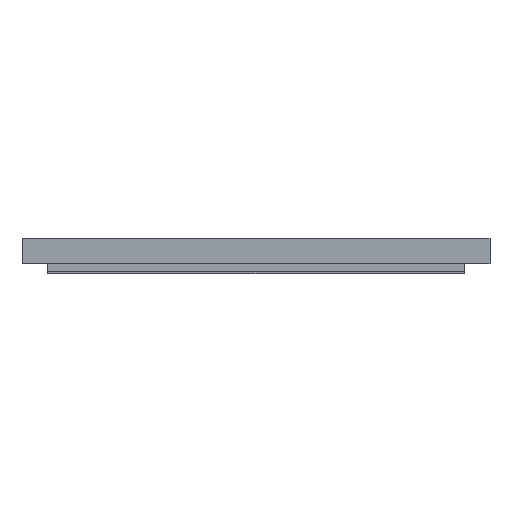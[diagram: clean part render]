
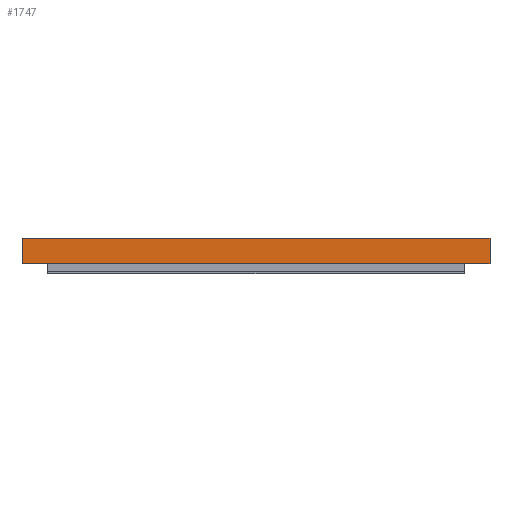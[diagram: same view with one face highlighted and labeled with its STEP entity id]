
A CAD part, left-side view. The second image highlights one B-rep face of the part: STEP entity #1747.
In plain terms, the highlighted planar face has unit normal (-1, 0, 0).
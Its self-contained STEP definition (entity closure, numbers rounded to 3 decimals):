
#87 = EDGE_CURVE ( 'NONE', #4824, #4411, #1331, .T. ) ;
#126 = VECTOR ( 'NONE', #4864, 1000. ) ;
#418 = VECTOR ( 'NONE', #5890, 1000. ) ;
#615 = EDGE_CURVE ( 'NONE', #3539, #726, #1576, .T. ) ;
#726 = VERTEX_POINT ( 'NONE', #2591 ) ;
#826 = DIRECTION ( 'NONE',  ( 0., 1., 0. ) ) ;
#854 = DIRECTION ( 'NONE',  ( 0., -1., 0. ) ) ;
#932 = CARTESIAN_POINT ( 'NONE',  ( -161.877, 397.5, 513.5 ) ) ;
#1040 = CARTESIAN_POINT ( 'NONE',  ( -161.877, -397.5, 535. ) ) ;
#1065 = ORIENTED_EDGE ( 'NONE', *, *, #87, .F. ) ;
#1118 = DIRECTION ( 'NONE',  ( 0., 1., 0. ) ) ;
#1146 = VECTOR ( 'NONE', #854, 1000. ) ;
#1197 = CARTESIAN_POINT ( 'NONE',  ( -161.877, 397.5, 492. ) ) ;
#1331 = LINE ( 'NONE', #932, #418 ) ;
#1342 = ORIENTED_EDGE ( 'NONE', *, *, #3318, .F. ) ;
#1504 = VECTOR ( 'NONE', #1118, 1000. ) ;
#1534 = ORIENTED_EDGE ( 'NONE', *, *, #4152, .F. ) ;
#1576 = LINE ( 'NONE', #3951, #126 ) ;
#1747 = ADVANCED_FACE ( 'NONE', ( #4040 ), #3257, .T. ) ;
#1771 = ORIENTED_EDGE ( 'NONE', *, *, #615, .F. ) ;
#1810 = EDGE_LOOP ( 'NONE', ( #1065, #1534, #1771, #1342 ) ) ;
#2200 = CARTESIAN_POINT ( 'NONE',  ( -161.877, 0., 535. ) ) ;
#2591 = CARTESIAN_POINT ( 'NONE',  ( -161.877, -397.5, 492. ) ) ;
#2618 = LINE ( 'NONE', #2200, #1146 ) ;
#2809 = CARTESIAN_POINT ( 'NONE',  ( -161.877, 397.5, 535. ) ) ;
#3257 = PLANE ( 'NONE',  #4479 ) ;
#3318 = EDGE_CURVE ( 'NONE', #4411, #3539, #2618, .T. ) ;
#3380 = CARTESIAN_POINT ( 'NONE',  ( -161.877, 0., 492. ) ) ;
#3438 = LINE ( 'NONE', #3380, #1504 ) ;
#3539 = VERTEX_POINT ( 'NONE', #1040 ) ;
#3951 = CARTESIAN_POINT ( 'NONE',  ( -161.877, -397.5, 513.5 ) ) ;
#4040 = FACE_OUTER_BOUND ( 'NONE', #1810, .T. ) ;
#4070 = DIRECTION ( 'NONE',  ( -1., 0., 0. ) ) ;
#4152 = EDGE_CURVE ( 'NONE', #726, #4824, #3438, .T. ) ;
#4411 = VERTEX_POINT ( 'NONE', #2809 ) ;
#4479 = AXIS2_PLACEMENT_3D ( 'NONE', #5879, #4070, #826 ) ;
#4824 = VERTEX_POINT ( 'NONE', #1197 ) ;
#4864 = DIRECTION ( 'NONE',  ( 0., 0., -1. ) ) ;
#5879 = CARTESIAN_POINT ( 'NONE',  ( -161.877, 0., 513.5 ) ) ;
#5890 = DIRECTION ( 'NONE',  ( 0., 0., 1. ) ) ;
